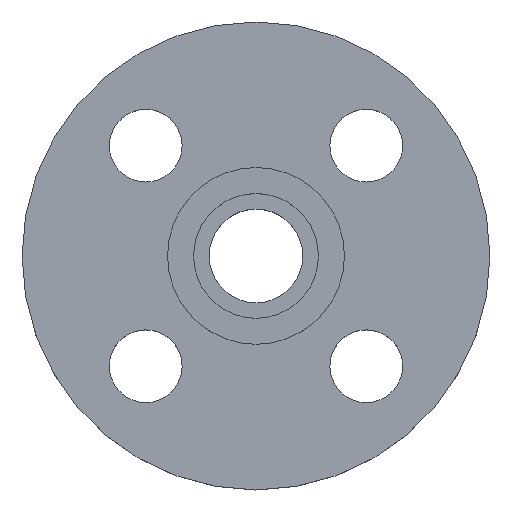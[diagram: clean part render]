
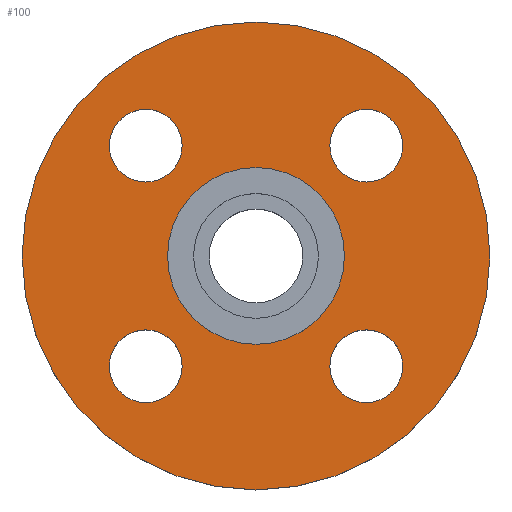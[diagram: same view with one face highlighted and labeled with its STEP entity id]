
A CAD part, top view. The second image highlights one B-rep face of the part: STEP entity #100.
In plain terms, the highlighted planar face has unit normal (0, 0, 1).
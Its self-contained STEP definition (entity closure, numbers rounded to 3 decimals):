
#8 = AXIS2_PLACEMENT_3D ( 'NONE', #260, #98, #101 ) ;
#23 = CIRCLE ( 'NONE', #341, 7. ) ;
#28 = CIRCLE ( 'NONE', #30, 7. ) ;
#30 = AXIS2_PLACEMENT_3D ( 'NONE', #54, #53, #52 ) ;
#32 = CIRCLE ( 'NONE', #38, 17. ) ;
#38 = AXIS2_PLACEMENT_3D ( 'NONE', #51, #50, #46 ) ;
#46 = DIRECTION ( 'NONE',  ( -1., 0., 0. ) ) ;
#50 = DIRECTION ( 'NONE',  ( 0., 0., -1. ) ) ;
#51 = CARTESIAN_POINT ( 'NONE',  ( 0., 0., -4.5 ) ) ;
#52 = DIRECTION ( 'NONE',  ( 1., 0., 0. ) ) ;
#53 = DIRECTION ( 'NONE',  ( 0., 0., -1. ) ) ;
#54 = CARTESIAN_POINT ( 'NONE',  ( 21.213, 21.213, -4.5 ) ) ;
#56 = CARTESIAN_POINT ( 'NONE',  ( 45., 0., -4.5 ) ) ;
#57 = AXIS2_PLACEMENT_3D ( 'NONE', #377, #379, #384 ) ;
#64 = CARTESIAN_POINT ( 'NONE',  ( -28.213, 21.213, -4.5 ) ) ;
#78 = CARTESIAN_POINT ( 'NONE',  ( 28.213, -21.213, -4.5 ) ) ;
#83 = CARTESIAN_POINT ( 'NONE',  ( 14.213, 21.213, -4.5 ) ) ;
#88 = AXIS2_PLACEMENT_3D ( 'NONE', #722, #723, #724 ) ;
#92 = EDGE_CURVE ( 'NONE', #652, #359, #699, .T. ) ;
#98 = DIRECTION ( 'NONE',  ( 0., 0., -1. ) ) ;
#100 = ADVANCED_FACE ( 'NONE', ( #713, #715, #716, #717, #718, #720 ), #721, .T. ) ;
#101 = DIRECTION ( 'NONE',  ( 1., 0., 0. ) ) ;
#116 = EDGE_CURVE ( 'NONE', #644, #422, #486, .T. ) ;
#121 = CARTESIAN_POINT ( 'NONE',  ( -17., 0., -4.5 ) ) ;
#138 = DIRECTION ( 'NONE',  ( 1., 0., 0. ) ) ;
#139 = DIRECTION ( 'NONE',  ( 0., 0., -1. ) ) ;
#140 = CARTESIAN_POINT ( 'NONE',  ( 21.213, -21.213, -4.5 ) ) ;
#146 = CARTESIAN_POINT ( 'NONE',  ( -28.213, -21.213, -4.5 ) ) ;
#150 = CARTESIAN_POINT ( 'NONE',  ( -14.213, 21.213, -4.5 ) ) ;
#160 = CARTESIAN_POINT ( 'NONE',  ( 28.213, 21.213, -4.5 ) ) ;
#167 = CARTESIAN_POINT ( 'NONE',  ( 17., 0., -4.5 ) ) ;
#178 = DIRECTION ( 'NONE',  ( 1., 0., 0. ) ) ;
#199 = AXIS2_PLACEMENT_3D ( 'NONE', #259, #253, #255 ) ;
#201 = DIRECTION ( 'NONE',  ( 0., 0., -1. ) ) ;
#202 = EDGE_CURVE ( 'NONE', #422, #644, #23, .T. ) ;
#206 = EDGE_CURVE ( 'NONE', #587, #407, #491, .T. ) ;
#209 = DIRECTION ( 'NONE',  ( 1., 0., 0. ) ) ;
#214 = CIRCLE ( 'NONE', #553, 7. ) ;
#231 = EDGE_CURVE ( 'NONE', #514, #385, #414, .T. ) ;
#236 = EDGE_CURVE ( 'NONE', #444, #654, #214, .T. ) ;
#241 = CIRCLE ( 'NONE', #199, 45. ) ;
#252 = CARTESIAN_POINT ( 'NONE',  ( -45., 0., -4.5 ) ) ;
#253 = DIRECTION ( 'NONE',  ( 0., 0., -1. ) ) ;
#255 = DIRECTION ( 'NONE',  ( -1., 0., 0. ) ) ;
#259 = CARTESIAN_POINT ( 'NONE',  ( 0., 0., -4.5 ) ) ;
#260 = CARTESIAN_POINT ( 'NONE',  ( 21.213, 21.213, -4.5 ) ) ;
#265 = CARTESIAN_POINT ( 'NONE',  ( -14.213, -21.213, -4.5 ) ) ;
#267 = DIRECTION ( 'NONE',  ( 1., 0., 0. ) ) ;
#273 = CARTESIAN_POINT ( 'NONE',  ( 21.213, -21.213, -4.5 ) ) ;
#275 = DIRECTION ( 'NONE',  ( 0., 0., -1. ) ) ;
#278 = CARTESIAN_POINT ( 'NONE',  ( 14.213, -21.213, -4.5 ) ) ;
#279 = CIRCLE ( 'NONE', #512, 7. ) ;
#281 = AXIS2_PLACEMENT_3D ( 'NONE', #428, #275, #209 ) ;
#292 = EDGE_CURVE ( 'NONE', #654, #444, #343, .T. ) ;
#295 = DIRECTION ( 'NONE',  ( 0., 0., -1. ) ) ;
#309 = AXIS2_PLACEMENT_3D ( 'NONE', #734, #736, #737 ) ;
#336 = EDGE_CURVE ( 'NONE', #625, #368, #522, .T. ) ;
#341 = AXIS2_PLACEMENT_3D ( 'NONE', #801, #295, #178 ) ;
#343 = CIRCLE ( 'NONE', #281, 7. ) ;
#352 = EDGE_CURVE ( 'NONE', #359, #652, #241, .T. ) ;
#359 = VERTEX_POINT ( 'NONE', #252 ) ;
#368 = VERTEX_POINT ( 'NONE', #278 ) ;
#377 = CARTESIAN_POINT ( 'NONE',  ( 0., 0., -4.5 ) ) ;
#379 = DIRECTION ( 'NONE',  ( 0., 0., -1. ) ) ;
#384 = DIRECTION ( 'NONE',  ( -1., 0., 0. ) ) ;
#385 = VERTEX_POINT ( 'NONE', #167 ) ;
#397 = CARTESIAN_POINT ( 'NONE',  ( -21.213, -21.213, -4.5 ) ) ;
#398 = DIRECTION ( 'NONE',  ( 0., 0., -1. ) ) ;
#399 = DIRECTION ( 'NONE',  ( 1., 0., 0. ) ) ;
#407 = VERTEX_POINT ( 'NONE', #160 ) ;
#414 = CIRCLE ( 'NONE', #57, 17. ) ;
#422 = VERTEX_POINT ( 'NONE', #150 ) ;
#428 = CARTESIAN_POINT ( 'NONE',  ( -21.213, -21.213, -4.5 ) ) ;
#444 = VERTEX_POINT ( 'NONE', #146 ) ;
#449 = EDGE_LOOP ( 'NONE', ( #547, #548 ) ) ;
#454 = EDGE_CURVE ( 'NONE', #368, #625, #279, .T. ) ;
#486 = CIRCLE ( 'NONE', #309, 7. ) ;
#491 = CIRCLE ( 'NONE', #8, 7. ) ;
#512 = AXIS2_PLACEMENT_3D ( 'NONE', #140, #139, #138 ) ;
#514 = VERTEX_POINT ( 'NONE', #121 ) ;
#522 = CIRCLE ( 'NONE', #571, 7. ) ;
#536 = ORIENTED_EDGE ( 'NONE', *, *, #336, .T. ) ;
#537 = ORIENTED_EDGE ( 'NONE', *, *, #454, .T. ) ;
#538 = ORIENTED_EDGE ( 'NONE', *, *, #292, .T. ) ;
#539 = ORIENTED_EDGE ( 'NONE', *, *, #236, .T. ) ;
#541 = ORIENTED_EDGE ( 'NONE', *, *, #202, .T. ) ;
#543 = ORIENTED_EDGE ( 'NONE', *, *, #116, .T. ) ;
#544 = ORIENTED_EDGE ( 'NONE', *, *, #710, .T. ) ;
#546 = ORIENTED_EDGE ( 'NONE', *, *, #206, .T. ) ;
#547 = ORIENTED_EDGE ( 'NONE', *, *, #231, .T. ) ;
#548 = ORIENTED_EDGE ( 'NONE', *, *, #776, .T. ) ;
#549 = ORIENTED_EDGE ( 'NONE', *, *, #92, .F. ) ;
#550 = ORIENTED_EDGE ( 'NONE', *, *, #352, .F. ) ;
#553 = AXIS2_PLACEMENT_3D ( 'NONE', #397, #398, #399 ) ;
#571 = AXIS2_PLACEMENT_3D ( 'NONE', #273, #201, #267 ) ;
#587 = VERTEX_POINT ( 'NONE', #83 ) ;
#614 = EDGE_LOOP ( 'NONE', ( #544, #546 ) ) ;
#617 = EDGE_LOOP ( 'NONE', ( #538, #539 ) ) ;
#618 = EDGE_LOOP ( 'NONE', ( #536, #537 ) ) ;
#624 = EDGE_LOOP ( 'NONE', ( #541, #543 ) ) ;
#625 = VERTEX_POINT ( 'NONE', #78 ) ;
#629 = EDGE_LOOP ( 'NONE', ( #549, #550 ) ) ;
#644 = VERTEX_POINT ( 'NONE', #64 ) ;
#652 = VERTEX_POINT ( 'NONE', #56 ) ;
#654 = VERTEX_POINT ( 'NONE', #265 ) ;
#676 = AXIS2_PLACEMENT_3D ( 'NONE', #696, #697, #698 ) ;
#696 = CARTESIAN_POINT ( 'NONE',  ( 0., 0., -4.5 ) ) ;
#697 = DIRECTION ( 'NONE',  ( 0., 0., -1. ) ) ;
#698 = DIRECTION ( 'NONE',  ( -1., 0., 0. ) ) ;
#699 = CIRCLE ( 'NONE', #676, 45. ) ;
#710 = EDGE_CURVE ( 'NONE', #407, #587, #28, .T. ) ;
#713 = FACE_BOUND ( 'NONE', #618, .T. ) ;
#715 = FACE_BOUND ( 'NONE', #617, .T. ) ;
#716 = FACE_BOUND ( 'NONE', #624, .T. ) ;
#717 = FACE_BOUND ( 'NONE', #614, .T. ) ;
#718 = FACE_BOUND ( 'NONE', #449, .T. ) ;
#720 = FACE_OUTER_BOUND ( 'NONE', #629, .T. ) ;
#721 = PLANE ( 'NONE',  #88 ) ;
#722 = CARTESIAN_POINT ( 'NONE',  ( 17., 0., -4.5 ) ) ;
#723 = DIRECTION ( 'NONE',  ( 0., 0., 1. ) ) ;
#724 = DIRECTION ( 'NONE',  ( 1., 0., 0. ) ) ;
#734 = CARTESIAN_POINT ( 'NONE',  ( -21.213, 21.213, -4.5 ) ) ;
#736 = DIRECTION ( 'NONE',  ( 0., 0., -1. ) ) ;
#737 = DIRECTION ( 'NONE',  ( 1., 0., 0. ) ) ;
#776 = EDGE_CURVE ( 'NONE', #385, #514, #32, .T. ) ;
#801 = CARTESIAN_POINT ( 'NONE',  ( -21.213, 21.213, -4.5 ) ) ;
